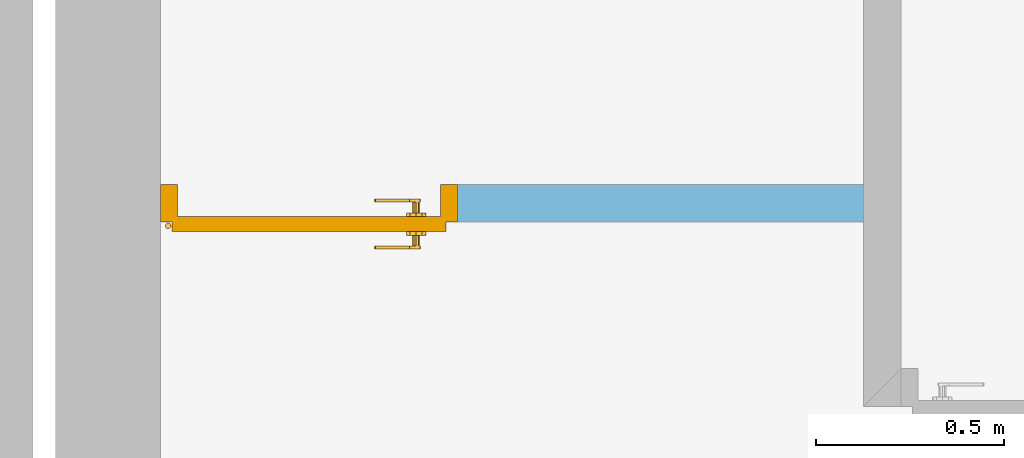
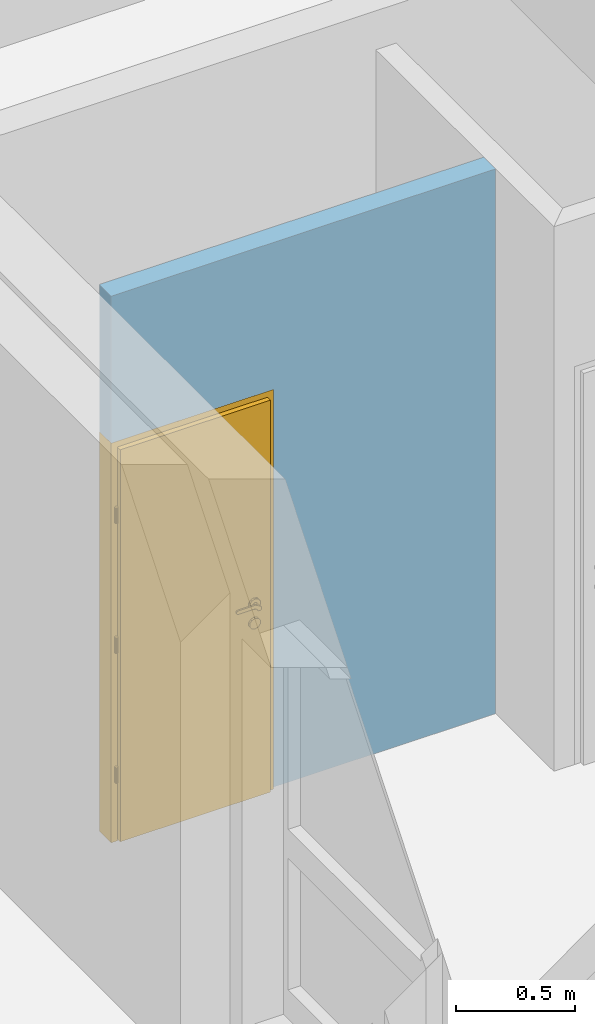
# One storey, part 38 of 45: 1 door, 1 opening, plus 1 element that does not belong to this part.
"""IFC2X3 building model written with IfcOpenShell, lengths in metres."""

import ifcopenshell
import ifcopenshell.guid

model = None  # the IFC model being written
_history = None  # IfcOwnerHistory: only IFC2X3 demands one
_inside = {}  # id of a spatial element -> (the spatial element, [elements in it])
_under = {}  # id of a project, library or spatial element -> (it, [spatial elements below it])
_declared = {}  # id of a project -> (the project, [libraries it declares])
_typed = {}  # id of a type object -> (the type object, [elements of that type])
_made_of = {}  # id of a material, layer set ... -> (it, [elements and type objects made of it])


def new_model(schema):
    """Start an empty IFC model of exactly this schema.

    Asked for "IFC4X3", IfcOpenShell would pick the latest addendum, in which some entities
    have other attributes; the version numbers below select the first issue.
    IFC2X3 requires an IfcOwnerHistory on every rooted entity: one is made here for all.
    """
    global model, _history
    if schema == "IFC4X3":
        model = ifcopenshell.file(schema_version=(4, 3, 0, 0))
    else:
        model = ifcopenshell.file(schema=schema)
    _inside.clear()
    _under.clear()
    _declared.clear()
    _typed.clear()
    _made_of.clear()
    _history = None
    if model.schema == "IFC2X3":
        org = make("IfcOrganization", Name="unknown")
        user = make(
            "IfcPersonAndOrganization",
            ThePerson=make("IfcPerson", FamilyName="unknown"),
            TheOrganization=org,
        )
        app = make(
            "IfcApplication",
            ApplicationDeveloper=org,
            Version="unknown",
            ApplicationFullName="unknown",
            ApplicationIdentifier="unknown",
        )
        _history = make(
            "IfcOwnerHistory",
            OwningUser=user,
            OwningApplication=app,
            ChangeAction="ADDED",
            CreationDate=0,
        )
    return model


def make(cls, **values):
    """One entity of the class cls with the attributes given. An attribute that is None is left unset."""
    return model.create_entity(
        cls, **{name: value for name, value in values.items() if value is not None}
    )


def entity(cls, *values):
    """Any entity or typed value of the class cls, its attributes in the order of the schema. None: left unset."""
    e = model.create_entity(cls)
    for i, value in enumerate(values):
        if value is not None:
            e[i] = value
    return e


def rooted(cls, **values):
    """An entity with a GlobalId (a new one), such as an element, a storey or a relation."""
    return make(cls, GlobalId=ifcopenshell.guid.new(), OwnerHistory=_history, **values)


def si_unit(unit_type, name, prefix=None):
    """IfcSIUnit, for example si_unit("LENGTHUNIT", "METRE", prefix="MILLI")."""
    return make("IfcSIUnit", UnitType=unit_type, Prefix=prefix, Name=name)


def converted_unit(unit_type, name, factor, base, dimensions=None, offset=None):
    """IfcConversionBasedUnit, such as the inch: factor (a typed value) times the base unit."""
    return make(
        "IfcConversionBasedUnit"
        if offset is None
        else "IfcConversionBasedUnitWithOffset",
        ConversionOffset=offset,
        Dimensions=None
        if dimensions is None
        else entity("IfcDimensionalExponents", *dimensions),
        UnitType=unit_type,
        Name=name,
        ConversionFactor=make(
            "IfcMeasureWithUnit", ValueComponent=factor, UnitComponent=base
        ),
    )


def money_unit(currency):
    """IfcMonetaryUnit."""
    return make("IfcMonetaryUnit", Currency=currency)


def assignment(units):
    """IfcUnitAssignment: the units of a project."""
    return None if units is None else make("IfcUnitAssignment", Units=units)


def point(xyz):
    """IfcCartesianPoint."""
    return None if xyz is None else make("IfcCartesianPoint", Coordinates=xyz)


def direction(xyz):
    """IfcDirection."""
    return None if xyz is None else make("IfcDirection", DirectionRatios=xyz)


def frame(location, z_axis=None, x_axis=None):
    """IfcAxis2Placement3D, a coordinate frame: its origin and axes. An axis left out is left unset."""
    return make(
        "IfcAxis2Placement3D",
        Location=point(location),
        Axis=direction(z_axis),
        RefDirection=direction(x_axis),
    )


def origin_with_axes():
    """The frame at (0, 0, 0) with the z axis (0, 0, 1) and the x axis (1, 0, 0) written out."""
    return frame((0.0, 0.0, 0.0), z_axis=(0.0, 0.0, 1.0), x_axis=(1.0, 0.0, 0.0))


def place(relative_to, where):
    """IfcLocalPlacement: puts the frame where relative to a parent placement (None: the world)."""
    return make(
        "IfcLocalPlacement", PlacementRelTo=relative_to, RelativePlacement=where
    )


def context(
    kind, dimensions, precision=None, world=None, true_north=None, identifier=None
):
    """IfcGeometricRepresentationContext, for example the 3D "Model" context."""
    return make(
        "IfcGeometricRepresentationContext",
        ContextIdentifier=identifier,
        ContextType=kind,
        CoordinateSpaceDimension=dimensions,
        Precision=precision,
        WorldCoordinateSystem=world,
        TrueNorth=true_north,
    )


def subcontext(parent, identifier, kind, view, scale=None):
    """IfcGeometricRepresentationSubContext, for example "Body" below "Model"."""
    return make(
        "IfcGeometricRepresentationSubContext",
        ContextIdentifier=identifier,
        ContextType=kind,
        ParentContext=parent,
        TargetScale=scale,
        TargetView=view,
    )


def project(units=None, contexts=None):
    """IfcProject with its units and contexts."""
    return rooted(
        "IfcProject",
        Name="project",
        RepresentationContexts=contexts,
        UnitsInContext=assignment(units),
    )


def spatial(cls, under=None, at=None, **own):
    """A site, building, storey or space (cls), placed at a placement, below another one or the project."""
    s = rooted(cls, ObjectPlacement=at, **own)
    if under is not None:
        _under.setdefault(under.id(), (under, []))[1].append(s)
    return s


def polyline(points):
    """IfcPolyline through the points."""
    return make("IfcPolyline", Points=[point(p) for p in points])


def outline(outer, holes=None, kind="AREA"):
    """IfcArbitraryClosedProfileDef: a profile drawn as a closed curve; with holes, ...WithVoids."""
    if holes is None:
        return make("IfcArbitraryClosedProfileDef", ProfileType=kind, OuterCurve=outer)
    return make(
        "IfcArbitraryProfileDefWithVoids",
        ProfileType=kind,
        OuterCurve=outer,
        InnerCurves=holes,
    )


def extrude(swept, where, along, depth):
    """IfcExtrudedAreaSolid: the profile swept, set in the frame where, extruded along a direction by depth."""
    return make(
        "IfcExtrudedAreaSolid",
        SweptArea=swept,
        Position=where,
        ExtrudedDirection=direction(along),
        Depth=depth,
    )


def faces_of(points, faces, orient=None, outer=None):
    """IfcFace entities. A face is a list of loops; a loop is a list of indices into points, from 0.

    orient and outer hold one flag for each loop. By default every Orientation is true, the
    first loop of a face is its IfcFaceOuterBound and the others are IfcFaceBound.
    """
    made = []
    for i, loops in enumerate(faces):
        bounds = []
        for j, loop in enumerate(loops):
            is_outer = j == 0 if outer is None else outer[i][j]
            bounds.append(
                make(
                    "IfcFaceOuterBound" if is_outer else "IfcFaceBound",
                    Bound=make("IfcPolyLoop", Polygon=[points[k] for k in loop]),
                    Orientation=True if orient is None else orient[i][j],
                )
            )
        made.append(make("IfcFace", Bounds=bounds))
    return made


def faceted_brep(points, faces, orient=None, outer=None, voids=None):
    """IfcFacetedBrep: a solid bounded by flat faces; with voids (closed shells), ...WithVoids."""
    shared = [point(p) for p in points]
    hull = make("IfcClosedShell", CfsFaces=faces_of(shared, faces, orient, outer))
    if voids is None:
        return make("IfcFacetedBrep", Outer=hull)
    return make(
        "IfcFacetedBrepWithVoids",
        Outer=hull,
        Voids=[
            make(cls, CfsFaces=faces_of(shared, fs, o, b)) for cls, fs, o, b in voids
        ],
    )


def shape(context_of_items, identifier, shape_type, items):
    """IfcShapeRepresentation: the items that make up one representation, for example the "Body"."""
    return make(
        "IfcShapeRepresentation",
        ContextOfItems=context_of_items,
        RepresentationIdentifier=identifier,
        RepresentationType=shape_type,
        Items=items,
    )


def material(Name=None, Category=None):
    """IfcMaterial."""
    return make("IfcMaterial", Name=Name, Category=Category)


def layer(
    of_material, thickness, ventilated=None, Name=None, Category=None, Priority=None
):
    """IfcMaterialLayer: one layer of a wall or slab, of a material (None: an air gap)."""
    return make(
        "IfcMaterialLayer",
        Material=of_material,
        LayerThickness=thickness,
        IsVentilated=ventilated,
        Name=Name,
        Category=Category,
        Priority=Priority,
    )


def layer_set(layers, Name=None):
    """IfcMaterialLayerSet."""
    return make("IfcMaterialLayerSet", MaterialLayers=layers, LayerSetName=Name)


def layer_usage(for_layer_set, set_direction, sense, offset, extent=None):
    """IfcMaterialLayerSetUsage: how a layer set lies in its element."""
    return make(
        "IfcMaterialLayerSetUsage",
        ForLayerSet=for_layer_set,
        LayerSetDirection=set_direction,
        DirectionSense=sense,
        OffsetFromReferenceLine=offset,
        ReferenceExtent=extent,
    )


def made_of(thing, what):
    """Note that an element or type object is made of a material, layer set ...; save() writes the relation."""
    if what is not None:
        _made_of.setdefault(what.id(), (what, []))[1].append(thing)
    return thing


def type_object(cls, material=None, **own):
    """A type object (cls), such as IfcWallType, which elements share."""
    return made_of(rooted(cls, **own), material)


def element(
    cls,
    number,
    at=None,
    inside=None,
    cuts=None,
    type_object=None,
    material=None,
    context=None,
    identifier="Body",
    shape_type=None,
    held_by="IfcProductDefinitionShape",
    body=None,
    shapes=None,
    **own,
):
    """One element of the class cls, such as IfcWall. Its Tag is "e" and its number.

    at: its placement. inside: the storey or other place that contains it. cuts: it is an
    opening in that element (IfcRelVoidsElement). A single representation is given by context,
    identifier, shape_type and body (its items); several are given by shapes. held_by: the class
    of the entity that holds the representations. save() writes the other relations.
    """
    e = rooted(cls, Tag="e%d" % number, ObjectPlacement=at, **own)
    if body is not None:
        shapes = [shape(context, identifier, shape_type, body)]
    if shapes is not None:
        e.Representation = make(held_by, Representations=shapes)
    if inside is not None:
        _inside.setdefault(inside.id(), (inside, []))[1].append(e)
    if cuts is not None:
        rooted(
            "IfcRelVoidsElement", RelatingBuildingElement=cuts, RelatedOpeningElement=e
        )
    if type_object is not None:
        _typed.setdefault(type_object.id(), (type_object, []))[1].append(e)
    return made_of(e, material)


def fill(opening, filler):
    """IfcRelFillsElement: the door or window that sits in an opening."""
    return rooted(
        "IfcRelFillsElement",
        RelatingOpeningElement=opening,
        RelatedBuildingElement=filler,
    )


def aggregate(whole, parts):
    """IfcRelAggregates: a whole, such as a stair, and the parts it consists of."""
    return rooted("IfcRelAggregates", RelatingObject=whole, RelatedObjects=parts)


def save(model, path):
    """Write the relations noted so far, then the file.

    IfcRelAggregates (storeys below a building ...), IfcRelContainedInSpatialStructure (elements
    in a storey), IfcRelDefinesByType, IfcRelAssociatesMaterial and IfcRelDeclares: one each for
    every whole, place, type object, material and project.
    """
    for whole, parts in _under.values():
        aggregate(whole, parts)
    for where, things in _inside.values():
        rooted(
            "IfcRelContainedInSpatialStructure",
            RelatedElements=things,
            RelatingStructure=where,
        )
    for kind, things in _typed.values():
        rooted("IfcRelDefinesByType", RelatedObjects=things, RelatingType=kind)
    for what, things in _made_of.values():
        rooted("IfcRelAssociatesMaterial", RelatedObjects=things, RelatingMaterial=what)
    for by, libraries in _declared.values():
        rooted("IfcRelDeclares", RelatingContext=by, RelatedDefinitions=libraries)
    model.write(path)


model = new_model("IFC2X3")

# Units and contexts
model_context = context("Model", 3, precision=1e-05, world=origin_with_axes(), true_north=direction((0.0, 1.0)))
body_context = subcontext(model_context, "Body", "Model", "MODEL_VIEW")
ifc_project = project(units=[si_unit("LENGTHUNIT", "METRE"), si_unit("AREAUNIT", "SQUARE_METRE"), si_unit("VOLUMEUNIT", "CUBIC_METRE"), converted_unit("PLANEANGLEUNIT", "DEGREE", entity("IfcPlaneAngleMeasure", 0.0174532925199), si_unit("PLANEANGLEUNIT", "RADIAN"), dimensions=[0, 0, 0, 0, 0, 0, 0]), si_unit("SOLIDANGLEUNIT", "STERADIAN"), money_unit("EUR"), converted_unit("TIMEUNIT", "Year", entity("IfcTimeMeasure", 31556926.0), si_unit("TIMEUNIT", "SECOND"), dimensions=[0, 0, 0, 0, 0, 0, 0]), si_unit("MASSUNIT", "GRAM"), si_unit("THERMODYNAMICTEMPERATUREUNIT", "DEGREE_CELSIUS"), si_unit("LUMINOUSINTENSITYUNIT", "LUMEN")], contexts=[model_context])

# Site, building, storey
site_placement = place(None, origin_with_axes())
site = spatial("IfcSite", under=ifc_project, at=site_placement, Name="Site", CompositionType="ELEMENT")
building_placement = place(site_placement, origin_with_axes())
building = spatial("IfcBuilding", under=site, at=building_placement, Name="Bâtiment", CompositionType="ELEMENT")
storey_placement = place(building_placement, origin_with_axes())
storey = spatial("IfcBuildingStorey", under=building, at=storey_placement, Name="NIVEAU BAS GYMNASE", CompositionType="ELEMENT", Elevation=0.0)

# Wall, opening, door
ifc_material_1 = material(Name="Hachure solide* 3962059836")
ifc_layer = layer(ifc_material_1, 0.1, ventilated="UNKNOWN")
ifc_layer_set = layer_set([ifc_layer], Name="Hachure solide* 3962059836 0.1")
ifc_layer_usage = layer_usage(ifc_layer_set, "AXIS2", "POSITIVE", 0.0)
wall_type = type_object("IfcWallType", Name="Hachure solide* 3962059836 100", PredefinedType="NOTDEFINED")
wall_placement = place(storey_placement, frame((47.728457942, 19.0586692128, 0.0), z_axis=(0.0, 0.0, 1.0), x_axis=(-1.0, 0.0, 0.0)))
wall = element("IfcWallStandardCase", 1, at=wall_placement, inside=storey, type_object=wall_type, material=ifc_layer_usage, Name="Mur-005", context=body_context, shape_type="SweptSolid", body=[
    extrude(outline(polyline([(0.1, 0.0), (1.97, 0.0), (1.97, 0.1), (0.1, 0.1), (0.1, 0.0)])), origin_with_axes(), (0.0, 0.0, 1.0), 2.8),
])
opening_placement = place(wall_placement, frame((1.57500000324, 0.0, -0.01), z_axis=(0.0, 0.0, 1.0), x_axis=(1.0, 0.0, 0.0)))
opening = element("IfcOpeningElement", 2, at=opening_placement, cuts=wall, Name="Por-018", context=body_context, shape_type="SweptSolid", body=[
    extrude(outline(polyline([(-0.395, 0.0), (-0.395, -2.055), (0.395, -2.055), (0.395, 0.0), (-0.395, 0.0)])), frame((0.0, -0.1, 0.0), z_axis=(0.0, 1.0, 0.0), x_axis=(1.0, 0.0, 0.0)), (0.0, 0.0, 1.0), 0.2),
])
ifc_material_2 = material(Name="Sans Trame")
door_style = type_object("IfcDoorStyle", Name="Porte int 1v", ConstructionType="NOTDEFINED", OperationType="NOTDEFINED", ParameterTakesPrecedence=False, Sizeable=False)
door_placement = place(opening_placement, frame((-0.395000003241, 0.0, 0.0), z_axis=(0.0, 0.0, 1.0), x_axis=(1.0, 0.0, 0.0)))
door = element("IfcDoor", 3, at=door_placement, inside=storey, type_object=door_style, material=ifc_material_2, Name="Por-018", OverallHeight=2.055, OverallWidth=0.79, context=body_context, shape_type="Brep", body=[
    faceted_brep([(0.79, 0.1, 0.0), (0.76, 0.1, 0.0), (0.76, 0.1, 2.025), (0.03, 0.1, 2.025), (0.03, 0.1, 0.0), (0.0, 0.1, 0.0), (0.0, 0.1, 2.055), (0.79, 0.1, 2.055), (0.79, 0.0, 0.0), (0.745, 0.0, 0.0), (0.745, 0.085, 0.0), (0.76, 0.085, 0.0), (0.76, 0.085, 2.025), (0.03, 0.085, 2.025), (0.03, 0.085, 0.0), (0.045, 0.085, 0.0), (0.045, 0.0, 0.0), (0.0, 0.0, 0.0), (0.0, 0.0, 2.055), (0.79, 0.0, 2.055), (0.045, 0.0, 2.01), (0.745, 0.0, 2.01), (0.745, 0.085, 2.01), (0.045, 0.085, 2.01)], [[[0, 1, 2, 3, 4, 5, 6, 7]], [[0, 8, 9, 10, 11, 1]], [[1, 11, 12, 2]], [[2, 12, 13, 3]], [[3, 13, 14, 4]], [[5, 4, 14, 15, 16, 17]], [[18, 6, 5, 17]], [[19, 7, 6, 18]], [[8, 0, 7, 19]], [[9, 8, 19, 18, 17, 16, 20, 21]], [[10, 9, 21, 22]], [[11, 10, 22, 23, 15, 14, 13, 12]], [[23, 20, 16, 15]], [[22, 21, 20, 23]]]),
    faceted_brep([(0.762614, 0.108698, 0.31), (0.7625, 0.11, 0.31), (0.762614, 0.111302, 0.31), (0.762952, 0.112565, 0.31), (0.763505, 0.11375, 0.31), (0.764255, 0.114821, 0.31), (0.765179, 0.115745, 0.31), (0.76625, 0.116495, 0.31), (0.767435, 0.117048, 0.31), (0.768698, 0.117386, 0.31), (0.77, 0.1175, 0.31), (0.771302, 0.117386, 0.31), (0.772565, 0.117048, 0.31), (0.77375, 0.116495, 0.31), (0.774821, 0.115745, 0.31), (0.775745, 0.114821, 0.31), (0.776495, 0.11375, 0.31), (0.777048, 0.112565, 0.31), (0.777386, 0.111302, 0.31), (0.7775, 0.11, 0.31), (0.777386, 0.108698, 0.31), (0.777048, 0.107435, 0.31), (0.776495, 0.10625, 0.31), (0.775745, 0.105179, 0.31), (0.774821, 0.104255, 0.31), (0.77375, 0.103505, 0.31), (0.772565, 0.102952, 0.31), (0.771302, 0.102614, 0.31), (0.77, 0.1025, 0.31), (0.768698, 0.102614, 0.31), (0.767435, 0.102952, 0.31), (0.76625, 0.103505, 0.31), (0.765179, 0.104255, 0.31), (0.764255, 0.105179, 0.31), (0.763505, 0.10625, 0.31), (0.762952, 0.107435, 0.31), (0.762614, 0.108698, 0.39), (0.7625, 0.11, 0.39), (0.762614, 0.111302, 0.39), (0.762952, 0.112565, 0.39), (0.763505, 0.11375, 0.39), (0.764255, 0.114821, 0.39), (0.765179, 0.115745, 0.39), (0.76625, 0.116495, 0.39), (0.767435, 0.117048, 0.39), (0.768698, 0.117386, 0.39), (0.77, 0.1175, 0.39), (0.771302, 0.117386, 0.39), (0.772565, 0.117048, 0.39), (0.77375, 0.116495, 0.39), (0.774821, 0.115745, 0.39), (0.775745, 0.114821, 0.39), (0.776495, 0.11375, 0.39), (0.777048, 0.112565, 0.39), (0.777386, 0.111302, 0.39), (0.7775, 0.11, 0.39), (0.777386, 0.108698, 0.39), (0.777048, 0.107435, 0.39), (0.776495, 0.10625, 0.39), (0.775745, 0.105179, 0.39), (0.774821, 0.104255, 0.39), (0.77375, 0.103505, 0.39), (0.772565, 0.102952, 0.39), (0.771302, 0.102614, 0.39), (0.77, 0.1025, 0.39), (0.768698, 0.102614, 0.39), (0.767435, 0.102952, 0.39), (0.76625, 0.103505, 0.39), (0.765179, 0.104255, 0.39), (0.764255, 0.105179, 0.39), (0.763505, 0.10625, 0.39), (0.762952, 0.107435, 0.39)], [[[0, 1, 2, 3, 4, 5, 6, 7, 8, 9, 10, 11, 12, 13, 14, 15, 16, 17, 18, 19, 20, 21, 22, 23, 24, 25, 26, 27, 28, 29, 30, 31, 32, 33, 34, 35]], [[0, 36, 37, 1]], [[1, 37, 38, 2]], [[2, 38, 39, 3]], [[3, 39, 40, 4]], [[4, 40, 41, 5]], [[5, 41, 42, 6]], [[6, 42, 43, 7]], [[7, 43, 44, 8]], [[8, 44, 45, 9]], [[9, 45, 46, 10]], [[10, 46, 47, 11]], [[11, 47, 48, 12]], [[12, 48, 49, 13]], [[13, 49, 50, 14]], [[14, 50, 51, 15]], [[15, 51, 52, 16]], [[16, 52, 53, 17]], [[17, 53, 54, 18]], [[18, 54, 55, 19]], [[19, 55, 56, 20]], [[20, 56, 57, 21]], [[21, 57, 58, 22]], [[22, 58, 59, 23]], [[23, 59, 60, 24]], [[24, 60, 61, 25]], [[25, 61, 62, 26]], [[26, 62, 63, 27]], [[27, 63, 64, 28]], [[28, 64, 65, 29]], [[29, 65, 66, 30]], [[30, 66, 67, 31]], [[31, 67, 68, 32]], [[32, 68, 69, 33]], [[33, 69, 70, 34]], [[34, 70, 71, 35]], [[35, 71, 36, 0]], [[36, 71, 70, 69, 68, 67, 66, 65, 64, 63, 62, 61, 60, 59, 58, 57, 56, 55, 54, 53, 52, 51, 50, 49, 48, 47, 46, 45, 44, 43, 42, 41, 40, 39, 38, 37]]]),
    faceted_brep([(0.762614, 0.108698, 0.9775), (0.7625, 0.11, 0.9775), (0.762614, 0.111302, 0.9775), (0.762952, 0.112565, 0.9775), (0.763505, 0.11375, 0.9775), (0.764255, 0.114821, 0.9775), (0.765179, 0.115745, 0.9775), (0.76625, 0.116495, 0.9775), (0.767435, 0.117048, 0.9775), (0.768698, 0.117386, 0.9775), (0.77, 0.1175, 0.9775), (0.771302, 0.117386, 0.9775), (0.772565, 0.117048, 0.9775), (0.77375, 0.116495, 0.9775), (0.774821, 0.115745, 0.9775), (0.775745, 0.114821, 0.9775), (0.776495, 0.11375, 0.9775), (0.777048, 0.112565, 0.9775), (0.777386, 0.111302, 0.9775), (0.7775, 0.11, 0.9775), (0.777386, 0.108698, 0.9775), (0.777048, 0.107435, 0.9775), (0.776495, 0.10625, 0.9775), (0.775745, 0.105179, 0.9775), (0.774821, 0.104255, 0.9775), (0.77375, 0.103505, 0.9775), (0.772565, 0.102952, 0.9775), (0.771302, 0.102614, 0.9775), (0.77, 0.1025, 0.9775), (0.768698, 0.102614, 0.9775), (0.767435, 0.102952, 0.9775), (0.76625, 0.103505, 0.9775), (0.765179, 0.104255, 0.9775), (0.764255, 0.105179, 0.9775), (0.763505, 0.10625, 0.9775), (0.762952, 0.107435, 0.9775), (0.762614, 0.108698, 1.0575), (0.7625, 0.11, 1.0575), (0.762614, 0.111302, 1.0575), (0.762952, 0.112565, 1.0575), (0.763505, 0.11375, 1.0575), (0.764255, 0.114821, 1.0575), (0.765179, 0.115745, 1.0575), (0.76625, 0.116495, 1.0575), (0.767435, 0.117048, 1.0575), (0.768698, 0.117386, 1.0575), (0.77, 0.1175, 1.0575), (0.771302, 0.117386, 1.0575), (0.772565, 0.117048, 1.0575), (0.77375, 0.116495, 1.0575), (0.774821, 0.115745, 1.0575), (0.775745, 0.114821, 1.0575), (0.776495, 0.11375, 1.0575), (0.777048, 0.112565, 1.0575), (0.777386, 0.111302, 1.0575), (0.7775, 0.11, 1.0575), (0.777386, 0.108698, 1.0575), (0.777048, 0.107435, 1.0575), (0.776495, 0.10625, 1.0575), (0.775745, 0.105179, 1.0575), (0.774821, 0.104255, 1.0575), (0.77375, 0.103505, 1.0575), (0.772565, 0.102952, 1.0575), (0.771302, 0.102614, 1.0575), (0.77, 0.1025, 1.0575), (0.768698, 0.102614, 1.0575), (0.767435, 0.102952, 1.0575), (0.76625, 0.103505, 1.0575), (0.765179, 0.104255, 1.0575), (0.764255, 0.105179, 1.0575), (0.763505, 0.10625, 1.0575), (0.762952, 0.107435, 1.0575)], [[[0, 1, 2, 3, 4, 5, 6, 7, 8, 9, 10, 11, 12, 13, 14, 15, 16, 17, 18, 19, 20, 21, 22, 23, 24, 25, 26, 27, 28, 29, 30, 31, 32, 33, 34, 35]], [[0, 36, 37, 1]], [[1, 37, 38, 2]], [[2, 38, 39, 3]], [[3, 39, 40, 4]], [[4, 40, 41, 5]], [[5, 41, 42, 6]], [[6, 42, 43, 7]], [[7, 43, 44, 8]], [[8, 44, 45, 9]], [[9, 45, 46, 10]], [[10, 46, 47, 11]], [[11, 47, 48, 12]], [[12, 48, 49, 13]], [[13, 49, 50, 14]], [[14, 50, 51, 15]], [[15, 51, 52, 16]], [[16, 52, 53, 17]], [[17, 53, 54, 18]], [[18, 54, 55, 19]], [[19, 55, 56, 20]], [[20, 56, 57, 21]], [[21, 57, 58, 22]], [[22, 58, 59, 23]], [[23, 59, 60, 24]], [[24, 60, 61, 25]], [[25, 61, 62, 26]], [[26, 62, 63, 27]], [[27, 63, 64, 28]], [[28, 64, 65, 29]], [[29, 65, 66, 30]], [[30, 66, 67, 31]], [[31, 67, 68, 32]], [[32, 68, 69, 33]], [[33, 69, 70, 34]], [[34, 70, 71, 35]], [[35, 71, 36, 0]], [[36, 71, 70, 69, 68, 67, 66, 65, 64, 63, 62, 61, 60, 59, 58, 57, 56, 55, 54, 53, 52, 51, 50, 49, 48, 47, 46, 45, 44, 43, 42, 41, 40, 39, 38, 37]]]),
    faceted_brep([(0.762614, 0.108698, 1.645), (0.7625, 0.11, 1.645), (0.762614, 0.111302, 1.645), (0.762952, 0.112565, 1.645), (0.763505, 0.11375, 1.645), (0.764255, 0.114821, 1.645), (0.765179, 0.115745, 1.645), (0.76625, 0.116495, 1.645), (0.767435, 0.117048, 1.645), (0.768698, 0.117386, 1.645), (0.77, 0.1175, 1.645), (0.771302, 0.117386, 1.645), (0.772565, 0.117048, 1.645), (0.77375, 0.116495, 1.645), (0.774821, 0.115745, 1.645), (0.775745, 0.114821, 1.645), (0.776495, 0.11375, 1.645), (0.777048, 0.112565, 1.645), (0.777386, 0.111302, 1.645), (0.7775, 0.11, 1.645), (0.777386, 0.108698, 1.645), (0.777048, 0.107435, 1.645), (0.776495, 0.10625, 1.645), (0.775745, 0.105179, 1.645), (0.774821, 0.104255, 1.645), (0.77375, 0.103505, 1.645), (0.772565, 0.102952, 1.645), (0.771302, 0.102614, 1.645), (0.77, 0.1025, 1.645), (0.768698, 0.102614, 1.645), (0.767435, 0.102952, 1.645), (0.76625, 0.103505, 1.645), (0.765179, 0.104255, 1.645), (0.764255, 0.105179, 1.645), (0.763505, 0.10625, 1.645), (0.762952, 0.107435, 1.645), (0.762614, 0.108698, 1.725), (0.7625, 0.11, 1.725), (0.762614, 0.111302, 1.725), (0.762952, 0.112565, 1.725), (0.763505, 0.11375, 1.725), (0.764255, 0.114821, 1.725), (0.765179, 0.115745, 1.725), (0.76625, 0.116495, 1.725), (0.767435, 0.117048, 1.725), (0.768698, 0.117386, 1.725), (0.77, 0.1175, 1.725), (0.771302, 0.117386, 1.725), (0.772565, 0.117048, 1.725), (0.77375, 0.116495, 1.725), (0.774821, 0.115745, 1.725), (0.775745, 0.114821, 1.725), (0.776495, 0.11375, 1.725), (0.777048, 0.112565, 1.725), (0.777386, 0.111302, 1.725), (0.7775, 0.11, 1.725), (0.777386, 0.108698, 1.725), (0.777048, 0.107435, 1.725), (0.776495, 0.10625, 1.725), (0.775745, 0.105179, 1.725), (0.774821, 0.104255, 1.725), (0.77375, 0.103505, 1.725), (0.772565, 0.102952, 1.725), (0.771302, 0.102614, 1.725), (0.77, 0.1025, 1.725), (0.768698, 0.102614, 1.725), (0.767435, 0.102952, 1.725), (0.76625, 0.103505, 1.725), (0.765179, 0.104255, 1.725), (0.764255, 0.105179, 1.725), (0.763505, 0.10625, 1.725), (0.762952, 0.107435, 1.725)], [[[0, 1, 2, 3, 4, 5, 6, 7, 8, 9, 10, 11, 12, 13, 14, 15, 16, 17, 18, 19, 20, 21, 22, 23, 24, 25, 26, 27, 28, 29, 30, 31, 32, 33, 34, 35]], [[0, 36, 37, 1]], [[1, 37, 38, 2]], [[2, 38, 39, 3]], [[3, 39, 40, 4]], [[4, 40, 41, 5]], [[5, 41, 42, 6]], [[6, 42, 43, 7]], [[7, 43, 44, 8]], [[8, 44, 45, 9]], [[9, 45, 46, 10]], [[10, 46, 47, 11]], [[11, 47, 48, 12]], [[12, 48, 49, 13]], [[13, 49, 50, 14]], [[14, 50, 51, 15]], [[15, 51, 52, 16]], [[16, 52, 53, 17]], [[17, 53, 54, 18]], [[18, 54, 55, 19]], [[19, 55, 56, 20]], [[20, 56, 57, 21]], [[21, 57, 58, 22]], [[22, 58, 59, 23]], [[23, 59, 60, 24]], [[24, 60, 61, 25]], [[25, 61, 62, 26]], [[26, 62, 63, 27]], [[27, 63, 64, 28]], [[28, 64, 65, 29]], [[29, 65, 66, 30]], [[30, 66, 67, 31]], [[31, 67, 68, 32]], [[32, 68, 69, 33]], [[33, 69, 70, 34]], [[34, 70, 71, 35]], [[35, 71, 36, 0]], [[36, 71, 70, 69, 68, 67, 66, 65, 64, 63, 62, 61, 60, 59, 58, 57, 56, 55, 54, 53, 52, 51, 50, 49, 48, 47, 46, 45, 44, 43, 42, 41, 40, 39, 38, 37]]]),
    faceted_brep([(0.76, 0.125, 0.01), (0.76, 0.085, 0.01), (0.03, 0.085, 0.01), (0.03, 0.125, 0.01), (0.76, 0.125, 2.025), (0.76, 0.085, 2.025), (0.03, 0.085, 2.025), (0.03, 0.125, 2.025)], [[[0, 1, 2, 3]], [[4, 5, 1, 0]], [[1, 5, 6, 2]], [[3, 2, 6, 7]], [[0, 3, 7, 4]], [[7, 6, 5, 4]]]),
    faceted_brep([(0.104122, 0.046, 1.01809), (0.11, 0.046, 1.02), (0.11, 0.0461, 1.02), (0.104122, 0.0461, 1.01809), (0.100489, 0.046, 1.01309), (0.100489, 0.046, 1.00691), (0.104122, 0.046, 1.00191), (0.11, 0.046, 1.0), (0.115878, 0.046, 1.00191), (0.119511, 0.046, 1.00691), (0.119511, 0.046, 1.01309), (0.115878, 0.046, 1.01809), (0.115878, 0.0461, 1.01809), (0.11, 0.0749, 1.02), (0.104122, 0.0749, 1.01809), (0.100489, 0.0461, 1.01309), (0.100489, 0.0461, 1.00691), (0.104122, 0.0461, 1.00191), (0.11, 0.0461, 1.0), (0.115878, 0.0461, 1.00191), (0.119511, 0.0461, 1.00691), (0.119511, 0.0461, 1.01309), (0.115878, 0.0749, 1.01809), (0.11, 0.075, 1.02), (0.104122, 0.075, 1.01809), (0.100489, 0.0749, 1.01309), (0.100489, 0.0749, 1.00691), (0.104122, 0.0749, 1.00191), (0.11, 0.0749, 1.0), (0.115878, 0.0749, 1.00191), (0.119511, 0.0749, 1.00691), (0.119511, 0.0749, 1.01309), (0.115878, 0.075, 1.01809), (0.119511, 0.075, 1.01309), (0.119511, 0.075, 1.00691), (0.115878, 0.075, 1.00191), (0.11, 0.075, 1.0), (0.104122, 0.075, 1.00191), (0.100489, 0.075, 1.00691), (0.100489, 0.075, 1.01309)], [[[0, 1, 2, 3]], [[1, 0, 4, 5, 6, 7, 8, 9, 10, 11]], [[1, 11, 12, 2]], [[3, 2, 13, 14]], [[4, 0, 3, 15]], [[5, 4, 15, 16]], [[6, 5, 16, 17]], [[7, 6, 17, 18]], [[8, 7, 18, 19]], [[9, 8, 19, 20]], [[10, 9, 20, 21]], [[11, 10, 21, 12]], [[2, 12, 22, 13]], [[14, 13, 23, 24]], [[15, 3, 14, 25]], [[16, 15, 25, 26]], [[17, 16, 26, 27]], [[18, 17, 27, 28]], [[19, 18, 28, 29]], [[20, 19, 29, 30]], [[21, 20, 30, 31]], [[12, 21, 31, 22]], [[13, 22, 32, 23]], [[23, 32, 33, 34, 35, 36, 37, 38, 39, 24]], [[25, 14, 24, 39]], [[26, 25, 39, 38]], [[27, 26, 38, 37]], [[28, 27, 37, 36]], [[29, 28, 36, 35]], [[30, 29, 35, 34]], [[31, 30, 34, 33]], [[22, 31, 33, 32]]]),
    faceted_brep([(0.094306, 0.075, 1.031601), (0.11, 0.075, 1.0367), (0.11, 0.0751, 1.0368), (0.094247, 0.0751, 1.031682), (0.084607, 0.075, 1.018251), (0.084607, 0.075, 1.001749), (0.094306, 0.075, 0.988399), (0.11, 0.075, 0.9833), (0.125694, 0.075, 0.988399), (0.135393, 0.075, 1.001749), (0.135393, 0.075, 1.018251), (0.125694, 0.075, 1.031601), (0.125753, 0.0751, 1.031682), (0.11, 0.0849, 1.0369), (0.094189, 0.0849, 1.031763), (0.084512, 0.0751, 1.018282), (0.084512, 0.0751, 1.001718), (0.094247, 0.0751, 0.988318), (0.11, 0.0751, 0.9832), (0.125753, 0.0751, 0.988318), (0.135488, 0.0751, 1.001718), (0.135488, 0.0751, 1.018282), (0.125811, 0.0849, 1.031763), (0.11, 0.085, 1.037), (0.09413, 0.085, 1.031843), (0.084417, 0.0849, 1.018313), (0.084417, 0.0849, 1.001687), (0.094189, 0.0849, 0.988237), (0.11, 0.0849, 0.9831), (0.125811, 0.0849, 0.988237), (0.135583, 0.0849, 1.001687), (0.135583, 0.0849, 1.018313), (0.12587, 0.085, 1.031843), (0.135679, 0.085, 1.018343), (0.135679, 0.085, 1.001657), (0.12587, 0.085, 0.988157), (0.11, 0.085, 0.983), (0.09413, 0.085, 0.988157), (0.084321, 0.085, 1.001657), (0.084321, 0.085, 1.018343)], [[[0, 1, 2, 3]], [[1, 0, 4, 5, 6, 7, 8, 9, 10, 11]], [[1, 11, 12, 2]], [[3, 2, 13, 14]], [[4, 0, 3, 15]], [[5, 4, 15, 16]], [[6, 5, 16, 17]], [[7, 6, 17, 18]], [[8, 7, 18, 19]], [[9, 8, 19, 20]], [[10, 9, 20, 21]], [[11, 10, 21, 12]], [[2, 12, 22, 13]], [[14, 13, 23, 24]], [[15, 3, 14, 25]], [[16, 15, 25, 26]], [[17, 16, 26, 27]], [[18, 17, 27, 28]], [[19, 18, 28, 29]], [[20, 19, 29, 30]], [[21, 20, 30, 31]], [[12, 21, 31, 22]], [[13, 22, 32, 23]], [[23, 32, 33, 34, 35, 36, 37, 38, 39, 24]], [[25, 14, 24, 39]], [[26, 25, 39, 38]], [[27, 26, 38, 37]], [[28, 27, 37, 36]], [[29, 28, 36, 35]], [[30, 29, 35, 34]], [[31, 30, 34, 33]], [[22, 31, 33, 32]]]),
    faceted_brep([(0.09413, 0.075, 0.931843), (0.11, 0.075, 0.937), (0.11, 0.0751, 0.937), (0.09413, 0.0751, 0.931843), (0.084321, 0.075, 0.918343), (0.084321, 0.075, 0.901657), (0.09413, 0.075, 0.888157), (0.11, 0.075, 0.883), (0.12587, 0.075, 0.888157), (0.135679, 0.075, 0.901657), (0.135679, 0.075, 0.918343), (0.12587, 0.075, 0.931843), (0.12587, 0.0751, 0.931843), (0.11, 0.0849, 0.937), (0.09413, 0.0849, 0.931843), (0.084321, 0.0751, 0.918343), (0.084321, 0.0751, 0.901657), (0.09413, 0.0751, 0.888157), (0.11, 0.0751, 0.883), (0.12587, 0.0751, 0.888157), (0.135679, 0.0751, 0.901657), (0.135679, 0.0751, 0.918343), (0.12587, 0.0849, 0.931843), (0.11, 0.085, 0.937), (0.09413, 0.085, 0.931843), (0.084321, 0.0849, 0.918343), (0.084321, 0.0849, 0.901657), (0.09413, 0.0849, 0.888157), (0.11, 0.0849, 0.883), (0.12587, 0.0849, 0.888157), (0.135679, 0.0849, 0.901657), (0.135679, 0.0849, 0.918343), (0.12587, 0.085, 0.931843), (0.135679, 0.085, 0.918343), (0.135679, 0.085, 0.901657), (0.12587, 0.085, 0.888157), (0.11, 0.085, 0.883), (0.09413, 0.085, 0.888157), (0.084321, 0.085, 0.901657), (0.084321, 0.085, 0.918343)], [[[0, 1, 2, 3]], [[1, 0, 4, 5, 6, 7, 8, 9, 10, 11]], [[1, 11, 12, 2]], [[3, 2, 13, 14]], [[4, 0, 3, 15]], [[5, 4, 15, 16]], [[6, 5, 16, 17]], [[7, 6, 17, 18]], [[8, 7, 18, 19]], [[9, 8, 19, 20]], [[10, 9, 20, 21]], [[11, 10, 21, 12]], [[2, 12, 22, 13]], [[14, 13, 23, 24]], [[15, 3, 14, 25]], [[16, 15, 25, 26]], [[17, 16, 26, 27]], [[18, 17, 27, 28]], [[19, 18, 28, 29]], [[20, 19, 29, 30]], [[21, 20, 30, 31]], [[12, 21, 31, 22]], [[13, 22, 32, 23]], [[23, 32, 33, 34, 35, 36, 37, 38, 39, 24]], [[25, 14, 24, 39]], [[26, 25, 39, 38]], [[27, 26, 38, 37]], [[28, 27, 37, 36]], [[29, 28, 36, 35]], [[30, 29, 35, 34]], [[31, 30, 34, 33]], [[22, 31, 33, 32]]]),
    faceted_brep([(0.2125, 0.046, 1.01575), (0.217683, 0.046, 1.017394), (0.217683, 0.0385, 1.017394), (0.2125, 0.0385, 1.01575), (0.132445, 0.046, 1.01575), (0.121226, 0.046, 1.009264), (0.118925, 0.046, 1.003152), (0.113616, 0.046, 0.999347), (0.107088, 0.046, 0.999133), (0.101542, 0.046, 1.002582), (0.098846, 0.046, 1.008532), (0.09991, 0.046, 1.014976), (0.104375, 0.046, 1.019743), (0.127755, 0.046, 1.03325), (0.2125, 0.046, 1.03325), (0.217683, 0.046, 1.031606), (0.220894, 0.046, 1.027219), (0.220894, 0.046, 1.021781), (0.220894, 0.0385, 1.021781), (0.220894, 0.0385, 1.027219), (0.217683, 0.0385, 1.031606), (0.2125, 0.0385, 1.03325), (0.127755, 0.0385, 1.03325), (0.104375, 0.0385, 1.019743), (0.09991, 0.0385, 1.014976), (0.098846, 0.0385, 1.008532), (0.101542, 0.0385, 1.002582), (0.107088, 0.0385, 0.999133), (0.113616, 0.0385, 0.999347), (0.118925, 0.0385, 1.003152), (0.121226, 0.0385, 1.009264), (0.132445, 0.0385, 1.01575)], [[[0, 1, 2, 3]], [[0, 4, 5, 6, 7, 8, 9, 10, 11, 12, 13, 14, 15, 16, 17, 1]], [[1, 17, 18, 2]], [[3, 2, 18, 19, 20, 21, 22, 23, 24, 25, 26, 27, 28, 29, 30, 31]], [[4, 0, 3, 31]], [[5, 4, 31, 30]], [[6, 5, 30, 29]], [[7, 6, 29, 28]], [[8, 7, 28, 27]], [[9, 8, 27, 26]], [[10, 9, 26, 25]], [[11, 10, 25, 24]], [[12, 11, 24, 23]], [[13, 12, 23, 22]], [[14, 13, 22, 21]], [[15, 14, 21, 20]], [[16, 15, 20, 19]], [[17, 16, 19, 18]]]),
    faceted_brep([(0.104122, 0.164, 1.01809), (0.104122, 0.1639, 1.01809), (0.11, 0.1639, 1.02), (0.11, 0.164, 1.02), (0.100489, 0.164, 1.01309), (0.100489, 0.1639, 1.01309), (0.104122, 0.1351, 1.01809), (0.11, 0.1351, 1.02), (0.115878, 0.1639, 1.01809), (0.115878, 0.164, 1.01809), (0.119511, 0.164, 1.01309), (0.119511, 0.164, 1.00691), (0.115878, 0.164, 1.00191), (0.11, 0.164, 1.0), (0.104122, 0.164, 1.00191), (0.100489, 0.164, 1.00691), (0.100489, 0.1639, 1.00691), (0.100489, 0.1351, 1.01309), (0.104122, 0.135, 1.01809), (0.11, 0.135, 1.02), (0.115878, 0.1351, 1.01809), (0.119511, 0.1639, 1.01309), (0.119511, 0.1639, 1.00691), (0.115878, 0.1639, 1.00191), (0.11, 0.1639, 1.0), (0.104122, 0.1639, 1.00191), (0.100489, 0.1351, 1.00691), (0.100489, 0.135, 1.01309), (0.100489, 0.135, 1.00691), (0.104122, 0.135, 1.00191), (0.11, 0.135, 1.0), (0.115878, 0.135, 1.00191), (0.119511, 0.135, 1.00691), (0.119511, 0.135, 1.01309), (0.115878, 0.135, 1.01809), (0.119511, 0.1351, 1.01309), (0.119511, 0.1351, 1.00691), (0.115878, 0.1351, 1.00191), (0.11, 0.1351, 1.0), (0.104122, 0.1351, 1.00191)], [[[0, 1, 2, 3]], [[4, 5, 1, 0]], [[1, 6, 7, 2]], [[3, 2, 8, 9]], [[3, 9, 10, 11, 12, 13, 14, 15, 4, 0]], [[15, 16, 5, 4]], [[5, 17, 6, 1]], [[6, 18, 19, 7]], [[2, 7, 20, 8]], [[9, 8, 21, 10]], [[10, 21, 22, 11]], [[11, 22, 23, 12]], [[12, 23, 24, 13]], [[13, 24, 25, 14]], [[14, 25, 16, 15]], [[16, 26, 17, 5]], [[17, 27, 18, 6]], [[19, 18, 27, 28, 29, 30, 31, 32, 33, 34]], [[7, 19, 34, 20]], [[8, 20, 35, 21]], [[21, 35, 36, 22]], [[22, 36, 37, 23]], [[23, 37, 38, 24]], [[24, 38, 39, 25]], [[25, 39, 26, 16]], [[26, 28, 27, 17]], [[39, 29, 28, 26]], [[38, 30, 29, 39]], [[37, 31, 30, 38]], [[36, 32, 31, 37]], [[35, 33, 32, 36]], [[20, 34, 33, 35]]]),
    faceted_brep([(0.094306, 0.135, 1.031601), (0.094247, 0.1349, 1.031682), (0.11, 0.1349, 1.0368), (0.11, 0.135, 1.0367), (0.084607, 0.135, 1.018251), (0.084512, 0.1349, 1.018282), (0.094189, 0.1251, 1.031763), (0.11, 0.1251, 1.0369), (0.125753, 0.1349, 1.031682), (0.125694, 0.135, 1.031601), (0.135393, 0.135, 1.018251), (0.135393, 0.135, 1.001749), (0.125694, 0.135, 0.988399), (0.11, 0.135, 0.9833), (0.094306, 0.135, 0.988399), (0.084607, 0.135, 1.001749), (0.084512, 0.1349, 1.001718), (0.084417, 0.1251, 1.018313), (0.09413, 0.125, 1.031843), (0.11, 0.125, 1.037), (0.125811, 0.1251, 1.031763), (0.135488, 0.1349, 1.018282), (0.135488, 0.1349, 1.001718), (0.125753, 0.1349, 0.988318), (0.11, 0.1349, 0.9832), (0.094247, 0.1349, 0.988318), (0.084417, 0.1251, 1.001687), (0.084321, 0.125, 1.018343), (0.084321, 0.125, 1.001657), (0.09413, 0.125, 0.988157), (0.11, 0.125, 0.983), (0.12587, 0.125, 0.988157), (0.135679, 0.125, 1.001657), (0.135679, 0.125, 1.018343), (0.12587, 0.125, 1.031843), (0.135583, 0.1251, 1.018313), (0.135583, 0.1251, 1.001687), (0.125811, 0.1251, 0.988237), (0.11, 0.1251, 0.9831), (0.094189, 0.1251, 0.988237)], [[[0, 1, 2, 3]], [[4, 5, 1, 0]], [[1, 6, 7, 2]], [[3, 2, 8, 9]], [[3, 9, 10, 11, 12, 13, 14, 15, 4, 0]], [[15, 16, 5, 4]], [[5, 17, 6, 1]], [[6, 18, 19, 7]], [[2, 7, 20, 8]], [[9, 8, 21, 10]], [[10, 21, 22, 11]], [[11, 22, 23, 12]], [[12, 23, 24, 13]], [[13, 24, 25, 14]], [[14, 25, 16, 15]], [[16, 26, 17, 5]], [[17, 27, 18, 6]], [[19, 18, 27, 28, 29, 30, 31, 32, 33, 34]], [[7, 19, 34, 20]], [[8, 20, 35, 21]], [[21, 35, 36, 22]], [[22, 36, 37, 23]], [[23, 37, 38, 24]], [[24, 38, 39, 25]], [[25, 39, 26, 16]], [[26, 28, 27, 17]], [[39, 29, 28, 26]], [[38, 30, 29, 39]], [[37, 31, 30, 38]], [[36, 32, 31, 37]], [[35, 33, 32, 36]], [[20, 34, 33, 35]]]),
    faceted_brep([(0.09413, 0.135, 0.931843), (0.09413, 0.1349, 0.931843), (0.11, 0.1349, 0.937), (0.11, 0.135, 0.937), (0.084321, 0.135, 0.918343), (0.084321, 0.1349, 0.918343), (0.09413, 0.1251, 0.931843), (0.11, 0.1251, 0.937), (0.12587, 0.1349, 0.931843), (0.12587, 0.135, 0.931843), (0.135679, 0.135, 0.918343), (0.135679, 0.135, 0.901657), (0.12587, 0.135, 0.888157), (0.11, 0.135, 0.883), (0.09413, 0.135, 0.888157), (0.084321, 0.135, 0.901657), (0.084321, 0.1349, 0.901657), (0.084321, 0.1251, 0.918343), (0.09413, 0.125, 0.931843), (0.11, 0.125, 0.937), (0.12587, 0.1251, 0.931843), (0.135679, 0.1349, 0.918343), (0.135679, 0.1349, 0.901657), (0.12587, 0.1349, 0.888157), (0.11, 0.1349, 0.883), (0.09413, 0.1349, 0.888157), (0.084321, 0.1251, 0.901657), (0.084321, 0.125, 0.918343), (0.084321, 0.125, 0.901657), (0.09413, 0.125, 0.888157), (0.11, 0.125, 0.883), (0.12587, 0.125, 0.888157), (0.135679, 0.125, 0.901657), (0.135679, 0.125, 0.918343), (0.12587, 0.125, 0.931843), (0.135679, 0.1251, 0.918343), (0.135679, 0.1251, 0.901657), (0.12587, 0.1251, 0.888157), (0.11, 0.1251, 0.883), (0.09413, 0.1251, 0.888157)], [[[0, 1, 2, 3]], [[4, 5, 1, 0]], [[1, 6, 7, 2]], [[3, 2, 8, 9]], [[3, 9, 10, 11, 12, 13, 14, 15, 4, 0]], [[15, 16, 5, 4]], [[5, 17, 6, 1]], [[6, 18, 19, 7]], [[2, 7, 20, 8]], [[9, 8, 21, 10]], [[10, 21, 22, 11]], [[11, 22, 23, 12]], [[12, 23, 24, 13]], [[13, 24, 25, 14]], [[14, 25, 16, 15]], [[16, 26, 17, 5]], [[17, 27, 18, 6]], [[19, 18, 27, 28, 29, 30, 31, 32, 33, 34]], [[7, 19, 34, 20]], [[8, 20, 35, 21]], [[21, 35, 36, 22]], [[22, 36, 37, 23]], [[23, 37, 38, 24]], [[24, 38, 39, 25]], [[25, 39, 26, 16]], [[26, 28, 27, 17]], [[39, 29, 28, 26]], [[38, 30, 29, 39]], [[37, 31, 30, 38]], [[36, 32, 31, 37]], [[35, 33, 32, 36]], [[20, 34, 33, 35]]]),
    faceted_brep([(0.2125, 0.164, 1.01575), (0.2125, 0.1715, 1.01575), (0.217683, 0.1715, 1.017394), (0.217683, 0.164, 1.017394), (0.132445, 0.164, 1.01575), (0.132445, 0.1715, 1.01575), (0.121226, 0.1715, 1.009264), (0.118925, 0.1715, 1.003152), (0.113616, 0.1715, 0.999347), (0.107088, 0.1715, 0.999133), (0.101542, 0.1715, 1.002582), (0.098846, 0.1715, 1.008532), (0.09991, 0.1715, 1.014976), (0.104375, 0.1715, 1.019743), (0.127755, 0.1715, 1.03325), (0.2125, 0.1715, 1.03325), (0.217683, 0.1715, 1.031606), (0.220894, 0.1715, 1.027219), (0.220894, 0.1715, 1.021781), (0.220894, 0.164, 1.021781), (0.220894, 0.164, 1.027219), (0.217683, 0.164, 1.031606), (0.2125, 0.164, 1.03325), (0.127755, 0.164, 1.03325), (0.104375, 0.164, 1.019743), (0.09991, 0.164, 1.014976), (0.098846, 0.164, 1.008532), (0.101542, 0.164, 1.002582), (0.107088, 0.164, 0.999133), (0.113616, 0.164, 0.999347), (0.118925, 0.164, 1.003152), (0.121226, 0.164, 1.009264)], [[[0, 1, 2, 3]], [[4, 5, 1, 0]], [[1, 5, 6, 7, 8, 9, 10, 11, 12, 13, 14, 15, 16, 17, 18, 2]], [[3, 2, 18, 19]], [[0, 3, 19, 20, 21, 22, 23, 24, 25, 26, 27, 28, 29, 30, 31, 4]], [[31, 6, 5, 4]], [[30, 7, 6, 31]], [[29, 8, 7, 30]], [[28, 9, 8, 29]], [[27, 10, 9, 28]], [[26, 11, 10, 27]], [[25, 12, 11, 26]], [[24, 13, 12, 25]], [[23, 14, 13, 24]], [[22, 15, 14, 23]], [[21, 16, 15, 22]], [[20, 17, 16, 21]], [[19, 18, 17, 20]]]),
])
fill(opening, door)

save(model, "model.ifc")
